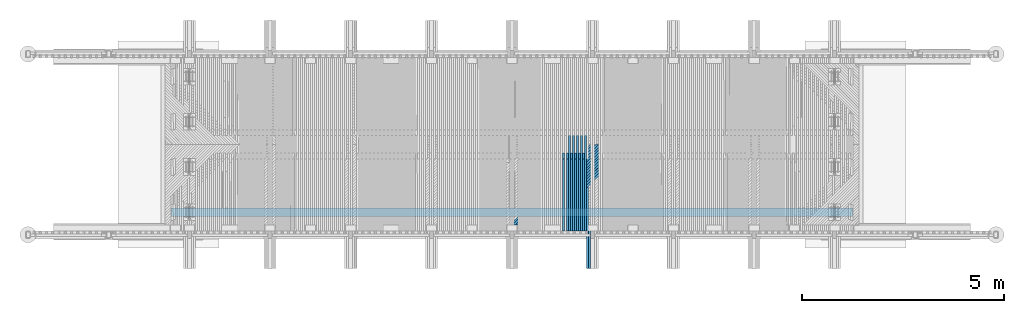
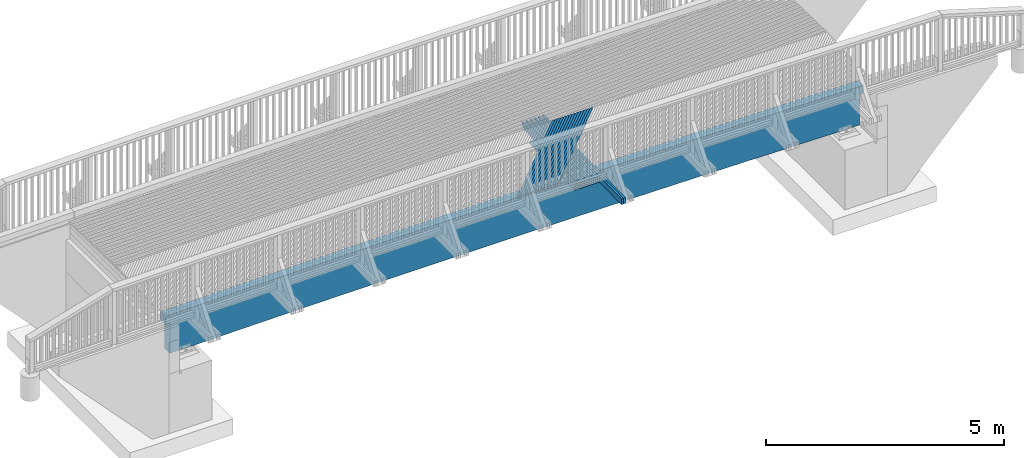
# One storey, part 30 of 53: 28 beams.
"""IFC2X3 building model written with IfcOpenShell, lengths in millimetres."""

from ifc_helpers import new_model, si_unit, frame, origin_with_axes, place, context, subcontext, project, spatial, faceted_brep, material, type_object, element, save


model = new_model("IFC2X3")

# Units and contexts
model_context = context("Model", 3, precision=1e-05, world=origin_with_axes())
body_context = subcontext(model_context, "Body", "Model", "MODEL_VIEW")
ifc_project = project(units=[si_unit("LENGTHUNIT", "METRE", prefix="MILLI"), si_unit("AREAUNIT", "SQUARE_METRE"), si_unit("VOLUMEUNIT", "CUBIC_METRE"), si_unit("MASSUNIT", "GRAM", prefix="KILO"), si_unit("TIMEUNIT", "SECOND"), si_unit("PLANEANGLEUNIT", "RADIAN"), si_unit("SOLIDANGLEUNIT", "STERADIAN"), si_unit("THERMODYNAMICTEMPERATUREUNIT", "DEGREE_CELSIUS"), si_unit("LUMINOUSINTENSITYUNIT", "LUMEN")], contexts=[model_context])

# Site, building, storey
site_placement = place(None, origin_with_axes())
site = spatial("IfcSite", under=ifc_project, at=site_placement, Name="Undefined", CompositionType="ELEMENT")
building_placement = place(site_placement, origin_with_axes())
building = spatial("IfcBuilding", under=site, at=building_placement, Name="Undefined", CompositionType="ELEMENT")
storey_placement = place(building_placement, origin_with_axes())
storey = spatial("IfcBuildingStorey", under=building, at=storey_placement, Name="Undefined", CompositionType="ELEMENT", Elevation=0.0)

# Beams
ifc_material = material(Name="TIMBER/Timber_Undefined")
beam_type_1 = type_object("IfcBeamType", Name="50*50", PredefinedType="NOTDEFINED")
for number, where, z_axis, x_axis, name in (
    (1, (10894.0405199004, 42364.5001003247, 3229.16691949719), (0.707044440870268, -0.706981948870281, -0.0162690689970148), (-0.707162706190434, -0.706948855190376, -0.0120092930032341), "BEAM"),
    (2, (10823.3170835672, 42364.5001003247, 3229.50270179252), (0.70704634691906, -0.706981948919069, -0.0161860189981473), (-0.707161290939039, -0.706948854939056, -0.0120923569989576), "BEAM"),
    (3, (10752.5936082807, 42364.5001003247, 3229.83017686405), (0.70704824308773, -0.706981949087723, -0.0161029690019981), (-0.707159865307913, -0.706948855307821, -0.0121754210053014), "BEAM"),
    (4, (10681.8700950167, 42364.5001003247, 3230.14934470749), (0.707050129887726, -0.706981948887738, -0.0160199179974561), (-0.707158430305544, -0.706948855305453, -0.0122584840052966), "BEAM"),
    (5, (10611.1465447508, 42364.5001003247, 3230.46020531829), (0.707052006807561, -0.70698194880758, -0.0159368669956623), (-0.707156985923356, -0.706948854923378, -0.0123415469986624), "BEAM"),
    (6, (10540.422958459, 42364.5001003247, 3230.76275869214), (0.707053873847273, -0.70698194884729, -0.0158538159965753), (-0.707155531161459, -0.706948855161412, -0.0124246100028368), "BEAM"),
    (7, (10469.6993371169, 42364.5001003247, 3231.05700482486), (0.707055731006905, -0.706981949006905, -0.0157707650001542), (-0.707154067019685, -0.706948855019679, -0.0125076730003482), "BEAM"),
    (8, (10398.9756817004, 42364.5001003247, 3231.34294371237), (0.707057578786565, -0.706981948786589, -0.0156877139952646), (-0.707152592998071, -0.706948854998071, -0.0125907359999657), "BEAM"),
    (9, (10328.2519931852, 42364.5001003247, 3231.62057535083), (0.707059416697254, -0.706981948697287, -0.0156046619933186), (-0.707151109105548, -0.706948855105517, -0.0126737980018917), "BEAM"),
    (10, (10257.5282725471, 42364.5001003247, 3231.88989973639), (0.707061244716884, -0.706981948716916, -0.0155216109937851), (-0.707149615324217, -0.706948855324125, -0.0127568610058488), "BEAM"),
    (11, (10186.8045207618, 42364.5001003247, 3232.15091686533), (0.707063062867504, -0.70698194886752, -0.0154385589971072), (-0.707148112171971, -0.706948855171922, -0.0128399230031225), "BEAM"),
    (12, (10116.0807388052, 42364.5001003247, 3232.40362673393), (0.707064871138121, -0.706981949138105, -0.0153555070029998), (-0.707146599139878, -0.706948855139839, -0.0129229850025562), "BEAM"),
    (13, (10045.356927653, 42364.5001003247, 3232.64802933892), (0.707066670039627, -0.706981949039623, -0.0152724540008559), (-0.707145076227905, -0.706948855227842, -0.0130060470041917), "BEAM"),
    (14, (9974.63308828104, 42364.5001003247, 3232.8841246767), (0.707068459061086, -0.706981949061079, -0.0151894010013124), (-0.707143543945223, -0.706948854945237, -0.0130891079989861), "BEAM"),
):
    element("IfcBeam", number, at=place(storey_placement, frame(where, z_axis=z_axis, x_axis=x_axis)), inside=storey, type_object=beam_type_1, material=ifc_material, Name=name, ObjectType="50*50", context=body_context, shape_type="Brep", body=[
        faceted_brep([(24.8942457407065, 25.0, -25.0), (-25.0086637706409, 24.9999999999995, 24.9999999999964), (2804.34067830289, 25.0, 25.0000000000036), (2854.34301907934, 24.9999999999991, -25.0000000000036), (-26.4222658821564, -25.0000000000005, 25.0000000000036), (2802.92643296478, -25.0, 25.0), (23.4806436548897, -25.0, -25.0), (2852.92877373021, -25.0000000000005, -25.0000000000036)], [[[0, 1, 2, 3]], [[1, 4, 5, 2]], [[4, 6, 7, 5]], [[6, 0, 3, 7]], [[5, 7, 3, 2]], [[6, 4, 1, 0]]]),
    ])
beam_type_2 = type_object("IfcBeamType", Name="150*50", PredefinedType="NOTDEFINED")
beam_1_placement = place(storey_placement, frame((9874.96303865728, 39292.7893167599, 3071.75387190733), z_axis=(0.00303381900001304, -0.0199960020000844, 0.999795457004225), x_axis=(6.19089999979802e-05, 0.999800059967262, 0.0199959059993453)))
element("IfcBeam", 15, at=beam_1_placement, inside=storey, type_object=beam_type_2, material=ifc_material, Name="BEAM", ObjectType="150*50", context=body_context, shape_type="Brep", body=[
    faceted_brep([(1.28420651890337e-08, -24.9999999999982, -74.9999999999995), (-1.28347892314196e-08, -24.9999999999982, 75.0), (-1.28347892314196e-08, 25.0, 75.0), (1.28420651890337e-08, 25.0000000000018, -75.0), (2713.86938248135, -25.0000000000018, 74.9999999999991), (2713.86933800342, 25.0000000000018, 75.0), (2852.32643692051, 24.9999999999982, -75.0000000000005), (2852.32648139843, -25.0000000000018, -75.0000000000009)], [[[0, 1, 2, 3]], [[2, 1, 4, 5]], [[3, 2, 5, 6]], [[0, 3, 6, 7]], [[1, 0, 7, 4]], [[7, 6, 5, 4]]]),
])
beam_2_placement = place(storey_placement, frame((9924.98506254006, 39292.7893321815, 3071.59377355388), z_axis=(0.00319994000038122, -0.0199960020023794, 0.999794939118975), x_axis=(6.36899999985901e-05, 0.99980005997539, 0.0199958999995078)))
element("IfcBeam", 16, at=beam_2_placement, inside=storey, type_object=beam_type_2, material=ifc_material, Name="BEAM", ObjectType="150*50", context=body_context, shape_type="Brep", body=[
    faceted_brep([(1.28420651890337e-08, -24.9999999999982, -74.9999999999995), (-1.28347892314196e-08, -24.9999999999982, 75.0), (-1.28347892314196e-08, 25.0, 75.0), (1.28420651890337e-08, 25.0000000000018, -75.0), (3298.90492234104, 25.0, -75.0), (3298.90497884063, -24.9999999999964, -75.0), (3434.49251531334, -24.9999999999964, 60.587536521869), (3074.32503029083, -25.0, 75.0000000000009), (3074.32497546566, 25.0000000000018, 75.0), (3434.49245887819, 25.0, 60.5875365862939)], [[[0, 1, 2, 3]], [[0, 3, 4, 5]], [[1, 0, 5, 6, 7]], [[2, 1, 7, 8]], [[4, 3, 2, 8, 9]], [[5, 4, 9, 6]], [[6, 9, 8, 7]]]),
])
beam_3_placement = place(storey_placement, frame((9775.52909420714, 40216.5046076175, 3090.53149263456), z_axis=(0.00286857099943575, -0.0199960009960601, 0.999795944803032), x_axis=(5.73710000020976e-05, 0.999800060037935, 0.0199959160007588)))
element("IfcBeam", 17, at=beam_3_placement, inside=storey, type_object=beam_type_2, material=ifc_material, Name="BEAM", ObjectType="150*50", context=body_context, shape_type="Brep", body=[
    faceted_brep([(1.28420651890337e-08, -24.9999999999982, -74.9999999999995), (-1.28347892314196e-08, -24.9999999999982, 75.0), (-1.28347892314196e-08, 25.0, 75.0), (1.28420651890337e-08, 25.0000000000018, -75.0), (1789.96936433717, -25.0000000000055, 74.9999999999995), (1789.96936408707, 24.9999999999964, 75.0000000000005), (1928.42646328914, 24.9999999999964, -74.9999999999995), (1928.42646353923, -25.0000000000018, -75.0)], [[[0, 1, 2, 3]], [[2, 1, 4, 5]], [[3, 2, 5, 6]], [[0, 3, 6, 7]], [[1, 0, 7, 4]], [[6, 5, 4, 7]]]),
])
beam_4_placement = place(storey_placement, frame((9825.54889674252, 40216.5046076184, 3090.37966862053), z_axis=(0.00303381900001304, -0.0199960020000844, 0.999795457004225), x_axis=(6.06940000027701e-05, 0.999800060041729, 0.0199959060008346)))
element("IfcBeam", 18, at=beam_4_placement, inside=storey, type_object=beam_type_2, material=ifc_material, Name="BEAM", ObjectType="150*50", context=body_context, shape_type="Brep", body=[
    faceted_brep([(1.28420651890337e-08, -24.9999999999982, -74.9999999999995), (-1.28347892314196e-08, -24.9999999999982, 75.0), (-1.28347892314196e-08, 25.0, 75.0), (1.28420651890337e-08, 25.0000000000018, -75.0), (2375.00494422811, 25.0000000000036, -75.0), (2375.0049444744, -24.9999999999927, -74.9999999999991), (2510.5924871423, -24.9999999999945, 60.5875430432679), (2150.42514405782, -24.9999999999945, 75.0), (2150.42515052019, 25.0000000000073, 75.0), (2510.59248715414, 25.0000000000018, 60.5875433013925)], [[[0, 1, 2, 3]], [[0, 3, 4, 5]], [[1, 0, 5, 6, 7]], [[2, 1, 7, 8]], [[4, 3, 2, 8, 9]], [[5, 4, 9, 6]], [[6, 9, 8, 7]]]),
])
beam_5_placement = place(storey_placement, frame((9675.50947138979, 40216.5046076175, 3090.81819688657), z_axis=(0.00270244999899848, -0.019996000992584, 0.999796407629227), x_axis=(5.40480000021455e-05, 0.999800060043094, 0.0199959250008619)))
element("IfcBeam", 19, at=beam_5_placement, inside=storey, type_object=beam_type_2, material=ifc_material, Name="BEAM", ObjectType="150*50", context=body_context, shape_type="Brep", body=[
    faceted_brep([(1.28420651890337e-08, -24.9999999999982, -74.9999999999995), (-1.28347892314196e-08, -24.9999999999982, 75.0), (-1.28347892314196e-08, 25.0, 75.0), (1.28420651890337e-08, 25.0000000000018, -75.0), (1789.96936433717, -25.0000000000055, 74.9999999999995), (1789.96936408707, 24.9999999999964, 75.0000000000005), (1928.42646328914, 24.9999999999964, -74.9999999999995), (1928.42646353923, -25.0000000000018, -75.0)], [[[0, 1, 2, 3]], [[2, 1, 4, 5]], [[3, 2, 5, 6]], [[0, 3, 6, 7]], [[1, 0, 7, 4]], [[6, 5, 4, 7]]]),
])
beam_6_placement = place(storey_placement, frame((9725.52929846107, 40216.5046076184, 3090.67468393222), z_axis=(0.00286857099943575, -0.0199960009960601, 0.999795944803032), x_axis=(5.73710000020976e-05, 0.999800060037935, 0.0199959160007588)))
element("IfcBeam", 20, at=beam_6_placement, inside=storey, type_object=beam_type_2, material=ifc_material, Name="BEAM", ObjectType="150*50", context=body_context, shape_type="Brep", body=[
    faceted_brep([(1.28420651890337e-08, -24.9999999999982, -74.9999999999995), (-1.28347892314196e-08, -24.9999999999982, 75.0), (-1.28347892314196e-08, 25.0, 75.0), (1.28420651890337e-08, 25.0000000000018, -75.0), (2375.00494422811, 25.0000000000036, -75.0), (2375.0049444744, -24.9999999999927, -74.9999999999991), (2510.5924871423, -24.9999999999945, 60.5875430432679), (2150.42514405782, -24.9999999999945, 75.0), (2150.42515052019, 25.0000000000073, 75.0), (2510.59248715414, 25.0000000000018, 60.5875433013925)], [[[0, 1, 2, 3]], [[0, 3, 4, 5]], [[1, 0, 5, 6, 7]], [[2, 1, 7, 8]], [[4, 3, 2, 8, 9]], [[5, 4, 9, 6]], [[6, 9, 8, 7]]]),
])
beam_7_placement = place(storey_placement, frame((9575.48980231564, 40216.5046076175, 3091.08828233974), z_axis=(0.0025363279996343, -0.0199960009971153, 0.999796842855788), x_axis=(5.07260000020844e-05, 0.999800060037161, 0.0199959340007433)))
element("IfcBeam", 21, at=beam_7_placement, inside=storey, type_object=beam_type_2, material=ifc_material, Name="BEAM", ObjectType="150*50", context=body_context, shape_type="Brep", body=[
    faceted_brep([(1.28420651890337e-08, -24.9999999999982, -74.9999999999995), (-1.28347892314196e-08, -24.9999999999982, 75.0), (-1.28347892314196e-08, 25.0, 75.0), (1.28420651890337e-08, 25.0000000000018, -75.0), (1789.96936433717, -25.0000000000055, 74.9999999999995), (1789.96936408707, 24.9999999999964, 75.0000000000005), (1928.42646328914, 24.9999999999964, -74.9999999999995), (1928.42646353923, -25.0000000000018, -75.0)], [[[0, 1, 2, 3]], [[2, 1, 4, 5]], [[3, 2, 5, 6]], [[0, 3, 6, 7]], [[1, 0, 7, 4]], [[6, 5, 4, 7]]]),
])
beam_8_placement = place(storey_placement, frame((9625.5096525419, 40216.5046076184, 3090.9530804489), z_axis=(0.00270244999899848, -0.019996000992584, 0.999796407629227), x_axis=(5.40480000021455e-05, 0.999800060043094, 0.0199959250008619)))
element("IfcBeam", 22, at=beam_8_placement, inside=storey, type_object=beam_type_2, material=ifc_material, Name="BEAM", ObjectType="150*50", context=body_context, shape_type="Brep", body=[
    faceted_brep([(1.28420651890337e-08, -24.9999999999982, -74.9999999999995), (-1.28347892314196e-08, -24.9999999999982, 75.0), (-1.28347892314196e-08, 25.0, 75.0), (1.28420651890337e-08, 25.0000000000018, -75.0), (2375.00494422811, 25.0000000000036, -75.0), (2375.0049444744, -24.9999999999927, -74.9999999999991), (2510.5924871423, -24.9999999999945, 60.5875430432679), (2150.42514405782, -24.9999999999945, 75.0), (2150.42515052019, 25.0000000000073, 75.0), (2510.59248715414, 25.0000000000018, 60.5875433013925)], [[[0, 1, 2, 3]], [[0, 3, 4, 5]], [[1, 0, 5, 6, 7]], [[2, 1, 7, 8]], [[4, 3, 2, 8, 9]], [[5, 4, 9, 6]], [[6, 9, 8, 7]]]),
])
beam_9_placement = place(storey_placement, frame((9475.470089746, 40216.5046076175, 3091.34174898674), z_axis=(0.00237020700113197, -0.0199960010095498, 0.999797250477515), x_axis=(4.74040000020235e-05, 0.999800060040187, 0.0199959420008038)))
element("IfcBeam", 23, at=beam_9_placement, inside=storey, type_object=beam_type_2, material=ifc_material, Name="BEAM", ObjectType="150*50", context=body_context, shape_type="Brep", body=[
    faceted_brep([(1.28420651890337e-08, -24.9999999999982, -74.9999999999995), (-1.28347892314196e-08, -24.9999999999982, 75.0), (-1.28347892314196e-08, 25.0, 75.0), (1.28420651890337e-08, 25.0000000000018, -75.0), (1789.96936433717, -25.0000000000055, 74.9999999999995), (1789.96936408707, 24.9999999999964, 75.0000000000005), (1928.42646328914, 24.9999999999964, -74.9999999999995), (1928.42646353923, -25.0000000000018, -75.0)], [[[0, 1, 2, 3]], [[2, 1, 4, 5]], [[3, 2, 5, 6]], [[0, 3, 6, 7]], [[1, 0, 7, 4]], [[6, 5, 4, 7]]]),
])
beam_10_placement = place(storey_placement, frame((9525.48996174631, 40216.5046076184, 3091.21485816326), z_axis=(0.0025363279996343, -0.0199960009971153, 0.999796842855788), x_axis=(5.07260000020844e-05, 0.999800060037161, 0.0199959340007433)))
element("IfcBeam", 24, at=beam_10_placement, inside=storey, type_object=beam_type_2, material=ifc_material, Name="BEAM", ObjectType="150*50", context=body_context, shape_type="Brep", body=[
    faceted_brep([(1.28420651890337e-08, -24.9999999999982, -74.9999999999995), (-1.28347892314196e-08, -24.9999999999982, 75.0), (-1.28347892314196e-08, 25.0, 75.0), (1.28420651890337e-08, 25.0000000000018, -75.0), (2375.00494422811, 25.0000000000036, -75.0), (2375.0049444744, -24.9999999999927, -74.9999999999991), (2510.5924871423, -24.9999999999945, 60.5875430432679), (2150.42514405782, -24.9999999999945, 75.0), (2150.42515052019, 25.0000000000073, 75.0), (2510.59248715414, 25.0000000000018, 60.5875433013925)], [[[0, 1, 2, 3]], [[0, 3, 4, 5]], [[1, 0, 5, 6, 7]], [[2, 1, 7, 8]], [[4, 3, 2, 8, 9]], [[5, 4, 9, 6]], [[6, 9, 8, 7]]]),
])
beam_11_placement = place(storey_placement, frame((9375.45033644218, 40216.5046076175, 3091.57859682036), z_axis=(0.00220408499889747, -0.0199960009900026, 0.999797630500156), x_axis=(4.4081000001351e-05, 0.999800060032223, 0.0199959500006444)))
element("IfcBeam", 25, at=beam_11_placement, inside=storey, type_object=beam_type_2, material=ifc_material, Name="BEAM", ObjectType="150*50", context=body_context, shape_type="Brep", body=[
    faceted_brep([(1.28420651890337e-08, -24.9999999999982, -74.9999999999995), (-1.28347892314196e-08, -24.9999999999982, 75.0), (-1.28347892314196e-08, 25.0, 75.0), (1.28420651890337e-08, 25.0000000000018, -75.0), (1789.96936433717, -25.0000000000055, 74.9999999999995), (1789.96936408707, 24.9999999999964, 75.0000000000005), (1928.42646328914, 24.9999999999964, -74.9999999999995), (1928.42646353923, -25.0000000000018, -75.0)], [[[0, 1, 2, 3]], [[2, 1, 4, 5]], [[3, 2, 5, 6]], [[0, 3, 6, 7]], [[1, 0, 7, 4]], [[6, 5, 4, 7]]]),
])
beam_12_placement = place(storey_placement, frame((9425.47022883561, 40216.5046076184, 3091.46001706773), z_axis=(0.00237020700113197, -0.0199960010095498, 0.999797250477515), x_axis=(4.74040000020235e-05, 0.999800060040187, 0.0199959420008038)))
element("IfcBeam", 26, at=beam_12_placement, inside=storey, type_object=beam_type_2, material=ifc_material, Name="BEAM", ObjectType="150*50", context=body_context, shape_type="Brep", body=[
    faceted_brep([(1.28420651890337e-08, -24.9999999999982, -74.9999999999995), (-1.28347892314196e-08, -24.9999999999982, 75.0), (-1.28347892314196e-08, 25.0, 75.0), (1.28420651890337e-08, 25.0000000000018, -75.0), (2375.00494422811, 25.0000000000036, -75.0), (2375.0049444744, -24.9999999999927, -74.9999999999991), (2510.5924871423, -24.9999999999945, 60.5875430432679), (2150.42514405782, -24.9999999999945, 75.0), (2150.42515052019, 25.0000000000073, 75.0), (2510.59248715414, 25.0000000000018, 60.5875433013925)], [[[0, 1, 2, 3]], [[0, 3, 4, 5]], [[1, 0, 5, 6, 7]], [[2, 1, 7, 8]], [[4, 3, 2, 8, 9]], [[5, 4, 9, 6]], [[6, 9, 8, 7]]]),
])
beam_13_placement = place(storey_placement, frame((9275.43054516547, 40216.5046076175, 3091.79882583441), z_axis=(0.00203796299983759, -0.0199960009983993, 0.999797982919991), x_axis=(4.07590000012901e-05, 0.999800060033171, 0.0199959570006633)))
element("IfcBeam", 27, at=beam_13_placement, inside=storey, type_object=beam_type_2, material=ifc_material, Name="BEAM", ObjectType="150*50", context=body_context, shape_type="Brep", body=[
    faceted_brep([(1.28420651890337e-08, -24.9999999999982, -74.9999999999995), (-1.28347892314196e-08, -24.9999999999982, 75.0), (-1.28347892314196e-08, 25.0, 75.0), (1.28420651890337e-08, 25.0000000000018, -75.0), (1789.96936433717, -25.0000000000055, 74.9999999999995), (1789.96936408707, 24.9999999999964, 75.0000000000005), (1928.42646328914, 24.9999999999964, -74.9999999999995), (1928.42646353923, -25.0000000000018, -75.0)], [[[0, 1, 2, 3]], [[2, 1, 4, 5]], [[3, 2, 5, 6]], [[0, 3, 6, 7]], [[1, 0, 7, 4]], [[6, 5, 4, 7]]]),
])
beam_type_3 = type_object("IfcBeamType", Name="990*215", PredefinedType="NOTDEFINED")
beam_14_placement = place(storey_placement, frame((243.613169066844, 40685.0, 2480.11879463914), z_axis=(0.0, 0.0, 1.0), x_axis=(1.0, 0.0, 0.0)))
element("IfcBeam", 28, at=beam_14_placement, inside=storey, type_object=beam_type_3, material=ifc_material, Name="PALKKI", ObjectType="990*215", context=body_context, shape_type="Brep", body=[
    faceted_brep([(16106.3868309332, 107.5, -494.790894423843), (16106.3868309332, -107.5, -494.790894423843), (16080.5342107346, -107.5, -494.790894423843), (15793.4597682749, -107.5, -494.790894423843), (15506.3868309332, -107.5, -494.958794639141), (15506.3868309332, 107.5, -494.958794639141), (15793.4597682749, 107.5, -494.790894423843), (16080.5342107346, 107.5, -494.790894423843), (16106.3868309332, 107.5, 285.209105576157), (16106.3868309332, -107.5, 285.209105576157), (16206.3868309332, 107.5, 285.209105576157), (16206.3868309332, -107.5, 285.209105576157), (16206.3868309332, 107.5, 485.682039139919), (16206.3868309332, -107.5, 485.682039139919), (-627.370013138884, 107.5, 486.625216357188), (-627.370013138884, -107.5, 486.625216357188), (-316.879497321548, -107.5, 490.87213125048), (-316.879497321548, 107.5, 490.87213125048), (-693.613169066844, -107.5, 485.684940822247), (-693.613169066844, -107.5, 285.209105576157), (-624.563039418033, -107.5, 285.209105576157), (-693.613169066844, 107.5, 485.684940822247), (-693.613169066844, 107.5, 285.209105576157), (-624.563039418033, 107.5, 285.209105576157), (-593.613169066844, 107.5, 285.209105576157), (-593.613169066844, -107.5, 285.209105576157), (-593.613169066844, 107.5, -494.790894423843), (-593.613169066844, -107.5, -494.790894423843), (-303.651924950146, -107.5, -494.790894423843), (-6.38683093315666, -107.5, 494.958794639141), (6.38683093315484, -107.5, -494.958794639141), (-6.38683093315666, 107.5, 494.958794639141), (6.38683093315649, 107.5, -494.790894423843), (304.107903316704, 107.5, 498.885205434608), (316.370645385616, 107.5, -491.038844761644), (-303.651924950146, 107.5, -494.790894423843), (316.370645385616, -107.5, -491.038844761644), (304.107903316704, -107.5, 498.885205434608), (614.604622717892, -107.5, 502.651362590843), (614.604622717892, 107.5, 502.651362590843), (626.356441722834, 107.5, -487.278884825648), (626.356441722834, -107.5, -487.278884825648), (936.344137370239, -107.5, -483.678915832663), (925.103244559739, -107.5, 506.257265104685), (925.103244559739, 107.5, 506.257265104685), (936.344137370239, 107.5, -483.678915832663), (1246.33364975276, 107.5, -480.238938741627), (1246.33364975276, -107.5, -480.238938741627), (1235.60368613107, -107.5, 509.702912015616), (1235.60368613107, 107.5, 509.702912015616), (1546.10586472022, 107.5, 512.988302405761), (1556.32489629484, 107.5, -476.958954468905), (1556.32489629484, -107.5, -476.958954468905), (1546.10586472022, -107.5, 512.988302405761), (1856.60969761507, -107.5, 516.113435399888), (1856.60969761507, 107.5, 516.113435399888), (1866.31779442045, 107.5, -473.838963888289), (1866.31779442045, -107.5, -473.838963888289), (2176.31226155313, -107.5, -470.878967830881), (2167.11510210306, -107.5, 519.078310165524), (2167.11510210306, 107.5, 519.078310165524), (2176.31226155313, 107.5, -470.878967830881), (2486.30821511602, 107.5, -468.078967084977), (2486.30821511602, -107.5, -468.078967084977), (2477.6219954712, -107.5, 521.882925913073), (2477.6219954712, 107.5, 521.882925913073), (2788.13029500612, 107.5, 524.527281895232), (2796.30557253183, 107.5, -465.438962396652), (2796.30557253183, -107.5, -465.438962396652), (2788.13029500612, -107.5, 524.527281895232), (3098.63991799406, -107.5, 527.011377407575), (3098.63991799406, 107.5, 527.011377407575), (3106.30425122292, 107.5, -462.958954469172), (3106.30425122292, -107.5, -462.958954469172), (3416.30416861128, -107.5, -460.638943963), (3409.15078172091, -107.5, 529.335211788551), (3409.15078172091, 107.5, 529.335211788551), (3416.30416861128, 107.5, -460.638943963), (3726.30524211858, 107.5, -458.478931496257), (3726.30524211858, -107.5, -458.478931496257), (3719.66280347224, -107.5, 531.49878441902), (3719.66280347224, 107.5, 531.49878441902), (4030.1759005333, 107.5, 533.502094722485), (4036.3073891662, 107.5, -456.478917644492), (4036.3073891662, -107.5, -456.478917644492), (4030.1759005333, -107.5, 533.502094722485), (4340.68999018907, -107.5, 535.345142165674), (4340.68999018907, 107.5, 535.345142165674), (4346.3105271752, 107.5, -454.638902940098), (4346.3105271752, -107.5, -454.638902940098), (4656.31457356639, -107.5, -452.958887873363), (4651.20498972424, -107.5, 537.027926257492), (4651.20498972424, 107.5, 537.027926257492), (4656.31457356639, 107.5, -452.958887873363), (4966.31944576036, 107.5, -451.438872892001), (4966.31944576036, -107.5, -451.438872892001), (4961.72081642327, -107.5, 538.550446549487), (4961.72081642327, 107.5, 538.550446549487), (5272.23738757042, 107.5, 539.912702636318), (5276.32506117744, 107.5, -450.078858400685), (5276.32506117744, -107.5, -450.078858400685), (5272.23738757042, -107.5, 539.912702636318), (5582.75462044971, -107.5, 541.114694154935), (5582.75462044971, 107.5, 541.114694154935), (5586.33133723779, 107.5, -448.878844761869), (5586.33133723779, -107.5, -448.878844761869), (5896.33819136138, -107.5, -447.838832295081), (5893.27243234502, -107.5, 542.156420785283), (5893.27243234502, 107.5, 542.156420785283), (5896.33819136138, 107.5, -447.838832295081), (6206.34554096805, 107.5, -446.958821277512), (6206.34554096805, -107.5, -446.958821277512), (6203.79074054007, -107.5, 543.037882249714), (6203.79074054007, 107.5, 543.037882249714), (6514.30946231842, 107.5, 543.759078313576), (6516.35330347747, 107.5, -446.238811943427), (6516.35330347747, -107.5, -446.238811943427), (6514.30946231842, -107.5, 543.759078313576), (6824.82851496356, -107.5, 544.320008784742), (6824.82851496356, 107.5, 544.320008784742), (6826.36139630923, 107.5, -445.678804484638), (6826.36139630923, -107.5, -445.678804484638), (7136.36973688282, -107.5, -445.278799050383), (7135.34781575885, -107.5, 544.720673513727), (7135.34781575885, 107.5, 544.720673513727), (7136.36973688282, 107.5, -445.278799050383), (7446.37824261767, 107.5, -445.038795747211), (7446.37824261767, -107.5, -445.038795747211), (7445.86728198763, -107.5, 544.961072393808), (7445.86728198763, 107.5, 544.961072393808), (7756.38683093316, 107.5, 545.041205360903), (7756.38683093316, 107.5, -444.958794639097), (7756.38683093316, -107.5, -444.958794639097), (7756.38683093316, -107.5, 545.041205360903), (8066.90637987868, -107.5, 544.961072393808), (8066.90637987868, 107.5, 544.961072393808), (8066.39541924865, 107.5, -445.038795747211), (8066.39541924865, -107.5, -445.038795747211), (8376.40392498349, -107.5, -445.278799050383), (8377.42584610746, -107.5, 544.720673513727), (8377.42584610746, 107.5, 544.720673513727), (8376.40392498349, 107.5, -445.278799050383), (8686.41226555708, 107.5, -445.678804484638), (8686.41226555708, -107.5, -445.678804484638), (8687.94514690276, -107.5, 544.320008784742), (8687.94514690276, 107.5, 544.320008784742), (8998.46419954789, 107.5, 543.759078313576), (8996.42035838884, 107.5, -446.238811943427), (8996.42035838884, -107.5, -446.238811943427), (8998.46419954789, -107.5, 543.759078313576), (9308.98292132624, -107.5, 543.037882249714), (9308.98292132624, 107.5, 543.037882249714), (9306.42812089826, 107.5, -446.958821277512), (9306.42812089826, -107.5, -446.958821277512), (9616.43547050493, -107.5, -447.838832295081), (9619.50122952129, -107.5, 542.156420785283), (9619.50122952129, 107.5, 542.156420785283), (9616.43547050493, 107.5, -447.838832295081), (9926.44232462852, 107.5, -448.878844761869), (9926.44232462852, -107.5, -448.878844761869), (9930.0190414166, -107.5, 541.114694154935), (9930.0190414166, 107.5, 541.114694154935), (10240.5362742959, 107.5, 539.912702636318), (10236.4486006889, 107.5, -450.078858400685), (10236.4486006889, -107.5, -450.078858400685), (10240.5362742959, -107.5, 539.912702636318), (10551.052845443, -107.5, 538.550446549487), (10551.052845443, 107.5, 538.550446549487), (10546.454216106, 107.5, -451.438872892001), (10546.454216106, -107.5, -451.438872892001), (10856.4590882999, -107.5, -452.958887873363), (10861.5686721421, -107.5, 537.027926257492), (10861.5686721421, 107.5, 537.027926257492), (10856.4590882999, 107.5, -452.958887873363), (11166.4631346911, 107.5, -454.638902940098), (11166.4631346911, -107.5, -454.638902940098), (11172.0836716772, -107.5, 535.345142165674), (11172.0836716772, 107.5, 535.345142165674), (11482.597761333, 107.5, 533.502094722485), (11476.4662727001, 107.5, -456.478917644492), (11476.4662727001, -107.5, -456.478917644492), (11482.597761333, -107.5, 533.502094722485), (11793.1108583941, -107.5, 531.49878441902), (11793.1108583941, 107.5, 531.49878441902), (11786.4684197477, 107.5, -458.478931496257), (11786.4684197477, -107.5, -458.478931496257), (12096.469493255, -107.5, -460.638943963), (12103.6228801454, -107.5, 529.335211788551), (12103.6228801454, 107.5, 529.335211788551), (12096.469493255, 107.5, -460.638943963), (12406.4694106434, 107.5, -462.958954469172), (12406.4694106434, -107.5, -462.958954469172), (12414.1337438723, -107.5, 527.011377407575), (12414.1337438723, 107.5, 527.011377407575), (12724.6433668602, 107.5, 524.527281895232), (12716.4680893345, 107.5, -465.438962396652), (12716.4680893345, -107.5, -465.438962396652), (12724.6433668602, -107.5, 524.527281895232), (13035.1516663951, -107.5, 521.882925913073), (13035.1516663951, 107.5, 521.882925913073), (13026.4654467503, 107.5, -468.078967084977), (13026.4654467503, -107.5, -468.078967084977), (13336.4614003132, -107.5, -470.878967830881), (13345.6585597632, -107.5, 519.078310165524), (13345.6585597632, 107.5, 519.078310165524), (13336.4614003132, 107.5, -470.878967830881), (13646.4558674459, 107.5, -473.838963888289), (13646.4558674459, -107.5, -473.838963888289), (13656.1639642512, -107.5, 516.113435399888), (13656.1639642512, 107.5, 516.113435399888), (13966.6677971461, 107.5, 512.988302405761), (13956.4487655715, 107.5, -476.958954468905), (13956.4487655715, -107.5, -476.958954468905), (13966.6677971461, -107.5, 512.988302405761), (14277.1699757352, -107.5, 509.702912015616), (14277.1699757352, 107.5, 509.702912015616), (14266.4400121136, 107.5, -480.238938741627), (14266.4400121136, -107.5, -480.238938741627), (14576.4295244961, -107.5, -483.678915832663), (14587.6704173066, -107.5, 506.257265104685), (14587.6704173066, 107.5, 506.257265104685), (14576.4295244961, 107.5, -483.678915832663), (14886.4172201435, 107.5, -487.278884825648), (14886.4172201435, -107.5, -487.278884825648), (14898.1690391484, -107.5, 502.651362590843), (14898.1690391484, 107.5, 502.651362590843), (15208.6657585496, 107.5, 498.885205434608), (15196.4030164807, 107.5, -491.038844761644), (15196.4030164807, -107.5, -491.038844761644), (15208.6657585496, -107.5, 498.885205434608), (15519.1604927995, -107.5, 494.958794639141), (15519.1604927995, 107.5, 494.958794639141), (15806.6537751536, -107.5, 491.180342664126), (15806.6537751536, 107.5, 491.180342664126), (16094.1452189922, -107.5, 487.264500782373), (16094.1452189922, 107.5, 487.264500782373)], [[[0, 1, 2, 3, 4, 5, 6, 7]], [[8, 9, 1, 0]], [[10, 11, 9, 8]], [[12, 13, 11, 10]], [[14, 15, 16, 17]], [[15, 18, 19, 20]], [[21, 22, 19, 18]], [[15, 14, 21, 18]], [[21, 14, 23, 22]], [[24, 25, 20, 19, 22, 23]], [[26, 27, 25, 24]], [[16, 15, 20, 25, 27, 28]], [[29, 16, 28, 30]], [[17, 16, 29, 31]], [[32, 31, 33, 34]], [[17, 31, 32, 35]], [[24, 23, 14, 17, 35, 26]], [[32, 30, 28, 27, 26, 35]], [[34, 36, 30, 32]], [[29, 30, 36, 37]], [[31, 29, 37, 33]], [[33, 37, 38, 39]], [[34, 33, 39, 40]], [[36, 34, 40, 41]], [[37, 36, 41, 38]], [[38, 41, 42, 43]], [[39, 38, 43, 44]], [[40, 39, 44, 45]], [[41, 40, 45, 42]], [[42, 45, 46, 47]], [[43, 42, 47, 48]], [[44, 43, 48, 49]], [[45, 44, 49, 46]], [[46, 49, 50, 51]], [[47, 46, 51, 52]], [[48, 47, 52, 53]], [[49, 48, 53, 50]], [[50, 53, 54, 55]], [[51, 50, 55, 56]], [[52, 51, 56, 57]], [[53, 52, 57, 54]], [[54, 57, 58, 59]], [[55, 54, 59, 60]], [[56, 55, 60, 61]], [[57, 56, 61, 58]], [[58, 61, 62, 63]], [[59, 58, 63, 64]], [[60, 59, 64, 65]], [[61, 60, 65, 62]], [[62, 65, 66, 67]], [[63, 62, 67, 68]], [[64, 63, 68, 69]], [[65, 64, 69, 66]], [[66, 69, 70, 71]], [[67, 66, 71, 72]], [[68, 67, 72, 73]], [[69, 68, 73, 70]], [[70, 73, 74, 75]], [[71, 70, 75, 76]], [[72, 71, 76, 77]], [[73, 72, 77, 74]], [[74, 77, 78, 79]], [[75, 74, 79, 80]], [[76, 75, 80, 81]], [[77, 76, 81, 78]], [[78, 81, 82, 83]], [[79, 78, 83, 84]], [[80, 79, 84, 85]], [[81, 80, 85, 82]], [[82, 85, 86, 87]], [[83, 82, 87, 88]], [[84, 83, 88, 89]], [[85, 84, 89, 86]], [[86, 89, 90, 91]], [[87, 86, 91, 92]], [[88, 87, 92, 93]], [[89, 88, 93, 90]], [[90, 93, 94, 95]], [[91, 90, 95, 96]], [[92, 91, 96, 97]], [[93, 92, 97, 94]], [[94, 97, 98, 99]], [[95, 94, 99, 100]], [[96, 95, 100, 101]], [[97, 96, 101, 98]], [[98, 101, 102, 103]], [[99, 98, 103, 104]], [[100, 99, 104, 105]], [[101, 100, 105, 102]], [[102, 105, 106, 107]], [[103, 102, 107, 108]], [[104, 103, 108, 109]], [[105, 104, 109, 106]], [[106, 109, 110, 111]], [[107, 106, 111, 112]], [[108, 107, 112, 113]], [[109, 108, 113, 110]], [[110, 113, 114, 115]], [[111, 110, 115, 116]], [[112, 111, 116, 117]], [[113, 112, 117, 114]], [[114, 117, 118, 119]], [[115, 114, 119, 120]], [[116, 115, 120, 121]], [[117, 116, 121, 118]], [[118, 121, 122, 123]], [[119, 118, 123, 124]], [[120, 119, 124, 125]], [[121, 120, 125, 122]], [[122, 125, 126, 127]], [[123, 122, 127, 128]], [[124, 123, 128, 129]], [[125, 124, 129, 126]], [[126, 129, 130, 131]], [[127, 126, 131, 132]], [[128, 127, 132, 133]], [[129, 128, 133, 130]], [[130, 133, 134, 135]], [[131, 130, 135, 136]], [[132, 131, 136, 137]], [[133, 132, 137, 134]], [[134, 137, 138, 139]], [[135, 134, 139, 140]], [[136, 135, 140, 141]], [[137, 136, 141, 138]], [[138, 141, 142, 143]], [[139, 138, 143, 144]], [[140, 139, 144, 145]], [[141, 140, 145, 142]], [[142, 145, 146, 147]], [[143, 142, 147, 148]], [[144, 143, 148, 149]], [[145, 144, 149, 146]], [[146, 149, 150, 151]], [[147, 146, 151, 152]], [[148, 147, 152, 153]], [[149, 148, 153, 150]], [[150, 153, 154, 155]], [[151, 150, 155, 156]], [[152, 151, 156, 157]], [[153, 152, 157, 154]], [[154, 157, 158, 159]], [[155, 154, 159, 160]], [[156, 155, 160, 161]], [[157, 156, 161, 158]], [[158, 161, 162, 163]], [[159, 158, 163, 164]], [[160, 159, 164, 165]], [[161, 160, 165, 162]], [[162, 165, 166, 167]], [[163, 162, 167, 168]], [[164, 163, 168, 169]], [[165, 164, 169, 166]], [[166, 169, 170, 171]], [[167, 166, 171, 172]], [[168, 167, 172, 173]], [[169, 168, 173, 170]], [[170, 173, 174, 175]], [[171, 170, 175, 176]], [[172, 171, 176, 177]], [[173, 172, 177, 174]], [[174, 177, 178, 179]], [[175, 174, 179, 180]], [[176, 175, 180, 181]], [[177, 176, 181, 178]], [[178, 181, 182, 183]], [[179, 178, 183, 184]], [[180, 179, 184, 185]], [[181, 180, 185, 182]], [[182, 185, 186, 187]], [[183, 182, 187, 188]], [[184, 183, 188, 189]], [[185, 184, 189, 186]], [[186, 189, 190, 191]], [[187, 186, 191, 192]], [[188, 187, 192, 193]], [[189, 188, 193, 190]], [[190, 193, 194, 195]], [[191, 190, 195, 196]], [[192, 191, 196, 197]], [[193, 192, 197, 194]], [[194, 197, 198, 199]], [[195, 194, 199, 200]], [[196, 195, 200, 201]], [[197, 196, 201, 198]], [[198, 201, 202, 203]], [[199, 198, 203, 204]], [[200, 199, 204, 205]], [[201, 200, 205, 202]], [[202, 205, 206, 207]], [[203, 202, 207, 208]], [[204, 203, 208, 209]], [[205, 204, 209, 206]], [[206, 209, 210, 211]], [[207, 206, 211, 212]], [[208, 207, 212, 213]], [[209, 208, 213, 210]], [[210, 213, 214, 215]], [[211, 210, 215, 216]], [[212, 211, 216, 217]], [[213, 212, 217, 214]], [[214, 217, 218, 219]], [[215, 214, 219, 220]], [[216, 215, 220, 221]], [[217, 216, 221, 218]], [[218, 221, 222, 223]], [[219, 218, 223, 224]], [[220, 219, 224, 225]], [[221, 220, 225, 222]], [[222, 225, 226, 227]], [[223, 222, 227, 228]], [[224, 223, 228, 229]], [[225, 224, 229, 226]], [[226, 229, 230, 231]], [[231, 230, 232, 233]], [[233, 232, 234, 235]], [[8, 0, 7, 235, 12, 10]], [[233, 235, 7, 6]], [[231, 233, 6, 5]], [[227, 226, 231, 5]], [[228, 227, 5, 4]], [[229, 228, 4, 230]], [[232, 230, 4, 3]], [[234, 232, 3, 2]], [[234, 2, 1, 9, 11, 13]], [[235, 234, 13, 12]]]),
])

save(model, "model.ifc")
